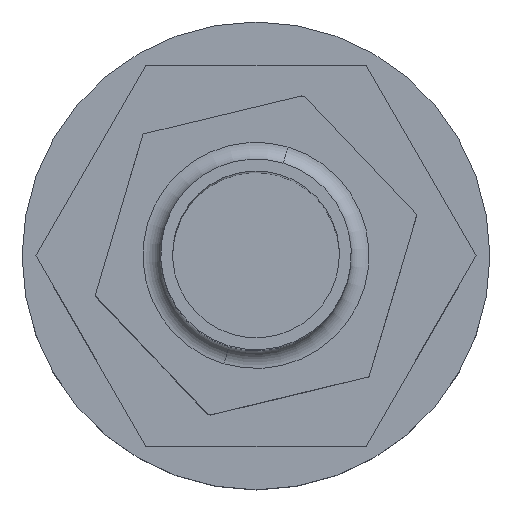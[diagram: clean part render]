
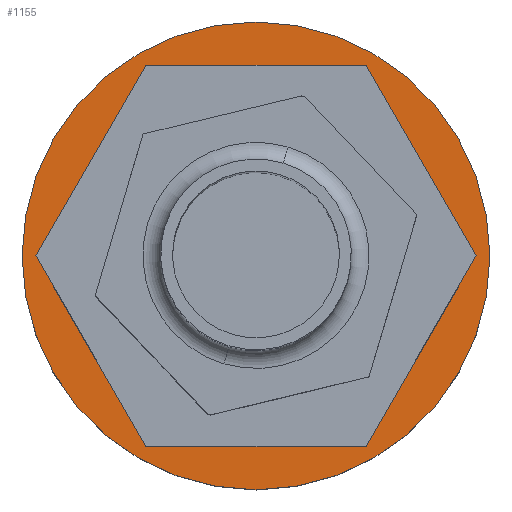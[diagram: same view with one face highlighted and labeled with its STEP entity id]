
A CAD part, top view. The second image highlights one B-rep face of the part: STEP entity #1155.
In plain terms, the highlighted planar face has unit normal (0, 0, 1).
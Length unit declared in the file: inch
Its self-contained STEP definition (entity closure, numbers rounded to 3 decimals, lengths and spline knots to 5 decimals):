
#35 = DIRECTION ( 'NONE',  ( 1., 0., 0. ) ) ;
#110 = DIRECTION ( 'NONE',  ( 1., 0., 0. ) ) ;
#111 = DIRECTION ( 'NONE',  ( 0., 0., 1. ) ) ;
#112 = CARTESIAN_POINT ( 'NONE',  ( -4.49481, 0.6448, -0.077 ) ) ;
#121 = PLANE ( 'NONE',  #1359 ) ;
#127 = CARTESIAN_POINT ( 'NONE',  ( -3.26781, 0.6448, -0.077 ) ) ;
#142 = CARTESIAN_POINT ( 'NONE',  ( -5.07216, 1.6448, -0.077 ) ) ;
#156 = DIRECTION ( 'NONE',  ( 0.5, 0.866, 0. ) ) ;
#169 = CARTESIAN_POINT ( 'NONE',  ( -5.07216, -0.3552, -0.077 ) ) ;
#185 = CARTESIAN_POINT ( 'NONE',  ( -3.91746, -0.3552, -0.077 ) ) ;
#198 = CARTESIAN_POINT ( 'NONE',  ( -3.91746, 1.6448, -0.077 ) ) ;
#200 = CARTESIAN_POINT ( 'NONE',  ( -5.64951, 0.6448, -0.077 ) ) ;
#204 = DIRECTION ( 'NONE',  ( 0.5, -0.866, 0. ) ) ;
#212 = CARTESIAN_POINT ( 'NONE',  ( -3.34011, 0.6448, -0.077 ) ) ;
#215 = CARTESIAN_POINT ( 'NONE',  ( -5.07216, 1.6448, -0.077 ) ) ;
#288 = DIRECTION ( 'NONE',  ( -0.5, -0.866, 0. ) ) ;
#355 = CARTESIAN_POINT ( 'NONE',  ( -5.72181, 0.6448, -0.077 ) ) ;
#359 = CARTESIAN_POINT ( 'NONE',  ( -5.64951, 0.6448, -0.077 ) ) ;
#373 = CARTESIAN_POINT ( 'NONE',  ( -3.91746, -0.3552, -0.077 ) ) ;
#377 = CARTESIAN_POINT ( 'NONE',  ( -5.07216, -0.3552, -0.077 ) ) ;
#379 = EDGE_CURVE ( 'NONE', #500, #477, #590, .T. ) ;
#383 = EDGE_CURVE ( 'NONE', #767, #453, #432, .T. ) ;
#384 = EDGE_CURVE ( 'NONE', #453, #500, #551, .T. ) ;
#385 = EDGE_CURVE ( 'NONE', #477, #742, #738, .T. ) ;
#417 = VECTOR ( 'NONE', #156, 39.37008 ) ;
#419 = ORIENTED_EDGE ( 'NONE', *, *, #385, .F. ) ;
#432 = LINE ( 'NONE', #215, #606 ) ;
#453 = VERTEX_POINT ( 'NONE', #359 ) ;
#477 = VERTEX_POINT ( 'NONE', #373 ) ;
#498 = ORIENTED_EDGE ( 'NONE', *, *, #1370, .F. ) ;
#500 = VERTEX_POINT ( 'NONE', #377 ) ;
#517 = VECTOR ( 'NONE', #204, 39.37008 ) ;
#526 = ORIENTED_EDGE ( 'NONE', *, *, #1363, .F. ) ;
#551 = LINE ( 'NONE', #200, #517 ) ;
#571 = EDGE_LOOP ( 'NONE', ( #654, #723 ) ) ;
#590 = LINE ( 'NONE', #169, #768 ) ;
#599 = ORIENTED_EDGE ( 'NONE', *, *, #379, .F. ) ;
#606 = VECTOR ( 'NONE', #288, 39.37008 ) ;
#654 = ORIENTED_EDGE ( 'NONE', *, *, #1220, .F. ) ;
#708 = ORIENTED_EDGE ( 'NONE', *, *, #383, .F. ) ;
#718 = VERTEX_POINT ( 'NONE', #127 ) ;
#722 = ORIENTED_EDGE ( 'NONE', *, *, #384, .F. ) ;
#723 = ORIENTED_EDGE ( 'NONE', *, *, #1365, .F. ) ;
#730 = VERTEX_POINT ( 'NONE', #198 ) ;
#733 = VERTEX_POINT ( 'NONE', #355 ) ;
#738 = LINE ( 'NONE', #185, #417 ) ;
#742 = VERTEX_POINT ( 'NONE', #212 ) ;
#757 = EDGE_LOOP ( 'NONE', ( #498, #419, #599, #722, #708, #526 ) ) ;
#767 = VERTEX_POINT ( 'NONE', #142 ) ;
#768 = VECTOR ( 'NONE', #35, 39.37008 ) ;
#811 = CIRCLE ( 'NONE', #1454, 1.227 ) ;
#930 = DIRECTION ( 'NONE',  ( -0.5, 0.866, 0. ) ) ;
#934 = CARTESIAN_POINT ( 'NONE',  ( -3.34011, 0.6448, -0.077 ) ) ;
#948 = DIRECTION ( 'NONE',  ( -1., 0., 0. ) ) ;
#949 = DIRECTION ( 'NONE',  ( 0., 0., -1. ) ) ;
#950 = DIRECTION ( 'NONE',  ( -1., 0., 0. ) ) ;
#951 = DIRECTION ( 'NONE',  ( 0., 0., -1. ) ) ;
#952 = CARTESIAN_POINT ( 'NONE',  ( -4.49481, 0.6448, -0.077 ) ) ;
#953 = CARTESIAN_POINT ( 'NONE',  ( -4.49481, 0.6448, -0.077 ) ) ;
#961 = DIRECTION ( 'NONE',  ( -1., 0., 0. ) ) ;
#962 = CARTESIAN_POINT ( 'NONE',  ( -3.91746, 1.6448, -0.077 ) ) ;
#1155 = ADVANCED_FACE ( 'NONE', ( #1280, #1267 ), #121, .T. ) ;
#1220 = EDGE_CURVE ( 'NONE', #733, #718, #811, .T. ) ;
#1267 = FACE_BOUND ( 'NONE', #757, .T. ) ;
#1280 = FACE_OUTER_BOUND ( 'NONE', #571, .T. ) ;
#1359 = AXIS2_PLACEMENT_3D ( 'NONE', #112, #111, #110 ) ;
#1363 = EDGE_CURVE ( 'NONE', #730, #767, #1493, .T. ) ;
#1365 = EDGE_CURVE ( 'NONE', #718, #733, #1509, .T. ) ;
#1370 = EDGE_CURVE ( 'NONE', #742, #730, #1474, .T. ) ;
#1454 = AXIS2_PLACEMENT_3D ( 'NONE', #952, #949, #948 ) ;
#1461 = AXIS2_PLACEMENT_3D ( 'NONE', #953, #951, #950 ) ;
#1474 = LINE ( 'NONE', #934, #1484 ) ;
#1484 = VECTOR ( 'NONE', #930, 39.37008 ) ;
#1493 = LINE ( 'NONE', #962, #1508 ) ;
#1508 = VECTOR ( 'NONE', #961, 39.37008 ) ;
#1509 = CIRCLE ( 'NONE', #1461, 1.227 ) ;
